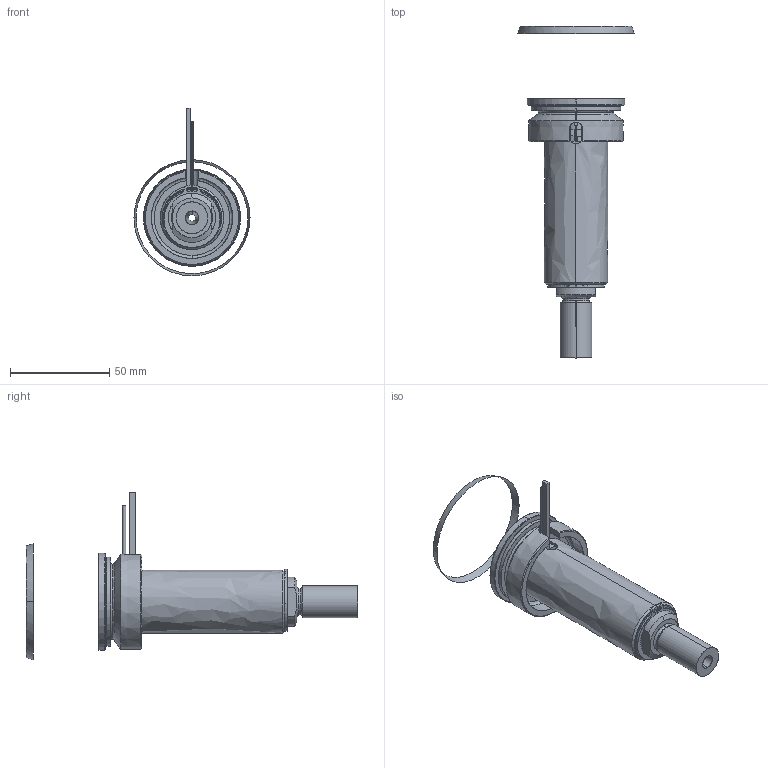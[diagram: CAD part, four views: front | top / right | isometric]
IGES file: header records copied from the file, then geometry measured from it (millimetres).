
Start section: SolidWorks IGES file using analytic representation for surfaces
Global section: file name: C:\Documents and Settings\ws-20\Desktop\TEMPORANEA\UGBE5002-S-A-P-3 [Ød-3.5 P-25 ØC-13].IGS; native system: SolidWorks 2012; preprocessor: SolidWorks 2012; author: ws-20; date: 120306.161927; units: millimetre
Bounding box: 58.57 x 167.44 x 84.59 mm (x, y, z)
Surface area: 43085.6 mm2 (no closed solid volume)
Topology: 0 solids, 0 shells, 111 faces, 2122 edges, 2122 vertices
Faces by surface type: revolution 67, bspline 44
